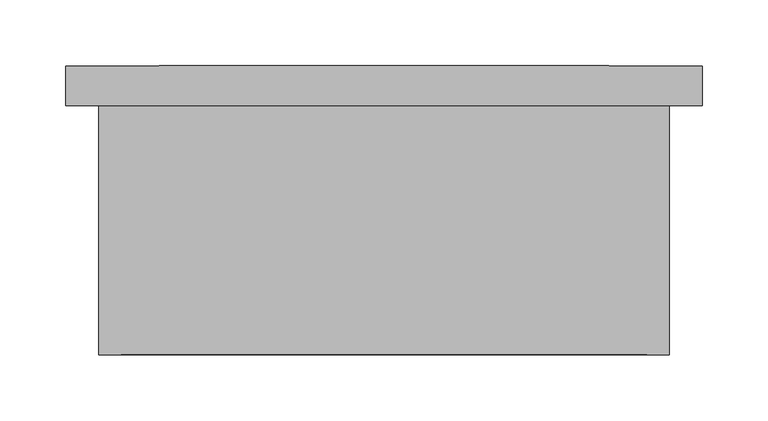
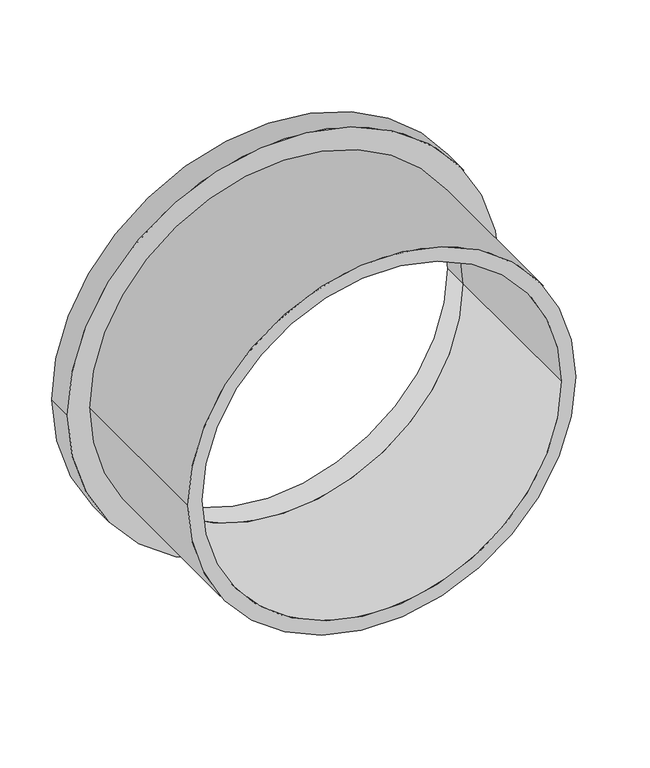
"""IFC4 building model written with IfcOpenShell, lengths in millimetres: pipe fitting geometry, 01051020 : Colarinho."""

import ifcopenshell
import ifcopenshell.guid

model = None  # the IFC model being written
_history = None  # IfcOwnerHistory: only IFC2X3 demands one
_inside = {}  # id of a spatial element -> (the spatial element, [elements in it])
_under = {}  # id of a project, library or spatial element -> (it, [spatial elements below it])
_declared = {}  # id of a project -> (the project, [libraries it declares])
_typed = {}  # id of a type object -> (the type object, [elements of that type])
_made_of = {}  # id of a material, layer set ... -> (it, [elements and type objects made of it])


def new_model(schema):
    """Start an empty IFC model of exactly this schema.

    Asked for "IFC4X3", IfcOpenShell would pick the latest addendum, in which some entities
    have other attributes; the version numbers below select the first issue.
    IFC2X3 requires an IfcOwnerHistory on every rooted entity: one is made here for all.
    """
    global model, _history
    if schema == "IFC4X3":
        model = ifcopenshell.file(schema_version=(4, 3, 0, 0))
    else:
        model = ifcopenshell.file(schema=schema)
    _inside.clear()
    _under.clear()
    _declared.clear()
    _typed.clear()
    _made_of.clear()
    _history = None
    if model.schema == "IFC2X3":
        org = make("IfcOrganization", Name="unknown")
        user = make(
            "IfcPersonAndOrganization",
            ThePerson=make("IfcPerson", FamilyName="unknown"),
            TheOrganization=org,
        )
        app = make(
            "IfcApplication",
            ApplicationDeveloper=org,
            Version="unknown",
            ApplicationFullName="unknown",
            ApplicationIdentifier="unknown",
        )
        _history = make(
            "IfcOwnerHistory",
            OwningUser=user,
            OwningApplication=app,
            ChangeAction="ADDED",
            CreationDate=0,
        )
    return model


def make(cls, **values):
    """One entity of the class cls with the attributes given. An attribute that is None is left unset."""
    return model.create_entity(
        cls, **{name: value for name, value in values.items() if value is not None}
    )


def rooted(cls, **values):
    """An entity with a GlobalId (a new one), such as an element, a storey or a relation."""
    return make(cls, GlobalId=ifcopenshell.guid.new(), OwnerHistory=_history, **values)


def si_unit(unit_type, name, prefix=None):
    """IfcSIUnit, for example si_unit("LENGTHUNIT", "METRE", prefix="MILLI")."""
    return make("IfcSIUnit", UnitType=unit_type, Prefix=prefix, Name=name)


def assignment(units):
    """IfcUnitAssignment: the units of a project."""
    return None if units is None else make("IfcUnitAssignment", Units=units)


def point(xyz):
    """IfcCartesianPoint."""
    return None if xyz is None else make("IfcCartesianPoint", Coordinates=xyz)


def direction(xyz):
    """IfcDirection."""
    return None if xyz is None else make("IfcDirection", DirectionRatios=xyz)


def frame(location, z_axis=None, x_axis=None):
    """IfcAxis2Placement3D, a coordinate frame: its origin and axes. An axis left out is left unset."""
    return make(
        "IfcAxis2Placement3D",
        Location=point(location),
        Axis=direction(z_axis),
        RefDirection=direction(x_axis),
    )


def frame_2d(location, x_axis=None):
    """IfcAxis2Placement2D, a coordinate frame in the plane: its origin and x axis."""
    return make(
        "IfcAxis2Placement2D", Location=point(location), RefDirection=direction(x_axis)
    )


def origin():
    """The frame at (0, 0, 0) with its axes left unset."""
    return frame((0.0, 0.0, 0.0))


def origin_2d():
    """The frame at (0, 0) in the plane with its x axis left unset."""
    return frame_2d((0.0, 0.0))


def place(relative_to, where):
    """IfcLocalPlacement: puts the frame where relative to a parent placement (None: the world)."""
    return make(
        "IfcLocalPlacement", PlacementRelTo=relative_to, RelativePlacement=where
    )


def context(
    kind, dimensions, precision=None, world=None, true_north=None, identifier=None
):
    """IfcGeometricRepresentationContext, for example the 3D "Model" context."""
    return make(
        "IfcGeometricRepresentationContext",
        ContextIdentifier=identifier,
        ContextType=kind,
        CoordinateSpaceDimension=dimensions,
        Precision=precision,
        WorldCoordinateSystem=world,
        TrueNorth=true_north,
    )


def project(units=None, contexts=None):
    """IfcProject with its units and contexts."""
    return rooted(
        "IfcProject",
        Name="project",
        RepresentationContexts=contexts,
        UnitsInContext=assignment(units),
    )


def spatial(cls, under=None, at=None, **own):
    """A site, building, storey or space (cls), placed at a placement, below another one or the project."""
    s = rooted(cls, ObjectPlacement=at, **own)
    if under is not None:
        _under.setdefault(under.id(), (under, []))[1].append(s)
    return s


def circle_curve(where, radius):
    """IfcCircle in the frame where."""
    return make("IfcCircle", Position=where, Radius=radius)


def trimmed(basis, trim1, trim2, sense, master):
    """IfcTrimmedCurve: the piece of a basis curve between two trims."""
    return make(
        "IfcTrimmedCurve",
        BasisCurve=basis,
        Trim1=trim1,
        Trim2=trim2,
        SenseAgreement=sense,
        MasterRepresentation=master,
    )


def segment(curve, same_sense, transition):
    """IfcCompositeCurveSegment."""
    return make(
        "IfcCompositeCurveSegment",
        Transition=transition,
        SameSense=same_sense,
        ParentCurve=curve,
    )


def composite_curve(segments, self_intersect=None):
    """IfcCompositeCurve: segments joined end to end."""
    return make("IfcCompositeCurve", Segments=segments, SelfIntersect=self_intersect)


def outline(outer, holes=None, kind="AREA"):
    """IfcArbitraryClosedProfileDef: a profile drawn as a closed curve; with holes, ...WithVoids."""
    if holes is None:
        return make("IfcArbitraryClosedProfileDef", ProfileType=kind, OuterCurve=outer)
    return make(
        "IfcArbitraryProfileDefWithVoids",
        ProfileType=kind,
        OuterCurve=outer,
        InnerCurves=holes,
    )


def extrude(swept, where, along, depth):
    """IfcExtrudedAreaSolid: the profile swept, set in the frame where, extruded along a direction by depth."""
    return make(
        "IfcExtrudedAreaSolid",
        SweptArea=swept,
        Position=where,
        ExtrudedDirection=direction(along),
        Depth=depth,
    )


def shape(context_of_items, identifier, shape_type, items):
    """IfcShapeRepresentation: the items that make up one representation, for example the "Body"."""
    return make(
        "IfcShapeRepresentation",
        ContextOfItems=context_of_items,
        RepresentationIdentifier=identifier,
        RepresentationType=shape_type,
        Items=items,
    )


def source(mapping_origin, context_of_items, identifier, shape_type, items):
    """IfcRepresentationMap: a shape defined once, which mapped items show again and again."""
    return make(
        "IfcRepresentationMap",
        MappingOrigin=mapping_origin,
        MappedRepresentation=shape(context_of_items, identifier, shape_type, items),
    )


def transform(
    local_origin,
    x_axis=None,
    y_axis=None,
    z_axis=None,
    scale=None,
    scale2=None,
    scale3=None,
    uniform=True,
):
    """IfcCartesianTransformationOperator3D, or its non-uniform kind. x_axis, y_axis, z_axis: its Axis1, 2, 3."""
    if uniform:
        return make(
            "IfcCartesianTransformationOperator3D",
            Axis1=direction(x_axis),
            Axis2=direction(y_axis),
            LocalOrigin=point(local_origin),
            Scale=scale,
            Axis3=direction(z_axis),
        )
    return make(
        "IfcCartesianTransformationOperator3DnonUniform",
        Axis1=direction(x_axis),
        Axis2=direction(y_axis),
        LocalOrigin=point(local_origin),
        Scale=scale,
        Axis3=direction(z_axis),
        Scale2=scale2,
        Scale3=scale3,
    )


def mapped(mapping_source, mapping_target):
    """IfcMappedItem: shows the shape of a source again, moved by a transform."""
    return make(
        "IfcMappedItem", MappingSource=mapping_source, MappingTarget=mapping_target
    )


def made_of(thing, what):
    """Note that an element or type object is made of a material, layer set ...; save() writes the relation."""
    if what is not None:
        _made_of.setdefault(what.id(), (what, []))[1].append(thing)
    return thing


def element(
    cls,
    number,
    at=None,
    inside=None,
    cuts=None,
    type_object=None,
    material=None,
    context=None,
    identifier="Body",
    shape_type=None,
    held_by="IfcProductDefinitionShape",
    body=None,
    shapes=None,
    **own,
):
    """One element of the class cls, such as IfcWall. Its Tag is "e" and its number.

    at: its placement. inside: the storey or other place that contains it. cuts: it is an
    opening in that element (IfcRelVoidsElement). A single representation is given by context,
    identifier, shape_type and body (its items); several are given by shapes. held_by: the class
    of the entity that holds the representations. save() writes the other relations.
    """
    e = rooted(cls, Tag="e%d" % number, ObjectPlacement=at, **own)
    if body is not None:
        shapes = [shape(context, identifier, shape_type, body)]
    if shapes is not None:
        e.Representation = make(held_by, Representations=shapes)
    if inside is not None:
        _inside.setdefault(inside.id(), (inside, []))[1].append(e)
    if cuts is not None:
        rooted(
            "IfcRelVoidsElement", RelatingBuildingElement=cuts, RelatedOpeningElement=e
        )
    if type_object is not None:
        _typed.setdefault(type_object.id(), (type_object, []))[1].append(e)
    return made_of(e, material)


def aggregate(whole, parts):
    """IfcRelAggregates: a whole, such as a stair, and the parts it consists of."""
    return rooted("IfcRelAggregates", RelatingObject=whole, RelatedObjects=parts)


def save(model, path):
    """Write the relations noted so far, then the file.

    IfcRelAggregates (storeys below a building ...), IfcRelContainedInSpatialStructure (elements
    in a storey), IfcRelDefinesByType, IfcRelAssociatesMaterial and IfcRelDeclares: one each for
    every whole, place, type object, material and project.
    """
    for whole, parts in _under.values():
        aggregate(whole, parts)
    for where, things in _inside.values():
        rooted(
            "IfcRelContainedInSpatialStructure",
            RelatedElements=things,
            RelatingStructure=where,
        )
    for kind, things in _typed.values():
        rooted("IfcRelDefinesByType", RelatedObjects=things, RelatingType=kind)
    for what, things in _made_of.values():
        rooted("IfcRelAssociatesMaterial", RelatedObjects=things, RelatingMaterial=what)
    for by, libraries in _declared.values():
        rooted("IfcRelDeclares", RelatingContext=by, RelatedDefinitions=libraries)
    model.write(path)


def pipe_fitting_a04ecdd1(model_context):
    return source(origin(), model_context, "Body", "SweptSolid", [
        extrude(outline(composite_curve([segment(trimmed(circle_curve(origin_2d(), 216.0), [point((0.0, -216.0))], [point((0.0, 216.0))], False, "CARTESIAN"), True, "CONTINUOUS"), segment(trimmed(circle_curve(origin_2d(), 216.0), [point((0.0, 216.0))], [point((0.0, -216.0))], False, "CARTESIAN"), True, "CONTINUOUS")], self_intersect=False), holes=[composite_curve([segment(trimmed(circle_curve(origin_2d(), 200.0), [point((0.0, -200.0))], [point((0.0, 200.0))], True, "CARTESIAN"), True, "CONTINUOUS"), segment(trimmed(circle_curve(origin_2d(), 200.0), [point((0.0, 200.0))], [point((0.0, -200.0))], True, "CARTESIAN"), True, "CONTINUOUS")], self_intersect=False)]), frame((0.0, -189.0, 0.0), z_axis=(0.0, 1.0, 0.0), x_axis=(0.0, 0.0, 1.0)), (0.0, 0.0, 1.0), 189.0),
        extrude(outline(composite_curve([segment(trimmed(circle_curve(origin_2d(), 241.0), [point((0.0, -241.0))], [point((0.0, 241.0))], False, "CARTESIAN"), True, "CONTINUOUS"), segment(trimmed(circle_curve(origin_2d(), 241.0), [point((0.0, 241.0))], [point((0.0, -241.0))], False, "CARTESIAN"), True, "CONTINUOUS")], self_intersect=False), holes=[composite_curve([segment(trimmed(circle_curve(origin_2d(), 200.0), [point((0.0, -200.0))], [point((0.0, 200.0))], True, "CARTESIAN"), True, "CONTINUOUS"), segment(trimmed(circle_curve(origin_2d(), 200.0), [point((0.0, 200.0))], [point((0.0, -200.0))], True, "CARTESIAN"), True, "CONTINUOUS")], self_intersect=False)]), frame((0.0, 0.0, 0.0), z_axis=(0.0, 1.0, 0.0), x_axis=(0.0, 0.0, 1.0)), (0.0, 0.0, 1.0), 30.0),
    ])


if __name__ == "__main__":
    model = new_model("IFC4")
    model_context = context("Model", 3, world=origin())
    ifc_project = project(units=[si_unit("LENGTHUNIT", "METRE", prefix="MILLI")], contexts=[model_context])
    site = spatial("IfcSite", under=ifc_project)
    building = spatial("IfcBuilding", under=site)
    placement = place(None, origin())
    pipe_fitting_shape = pipe_fitting_a04ecdd1(model_context)
    element("IfcPipeFitting", 1, ObjectType="01051020 : Colarinho", at=placement, inside=building, context=model_context, shape_type="MappedRepresentation", body=[
        mapped(pipe_fitting_shape, transform((0.0, 0.0, 0.0), x_axis=(1.0, 0.0, 0.0), y_axis=(0.0, 1.0, 0.0), z_axis=(0.0, 0.0, 1.0))),
    ])
    save(model, "model.ifc")
